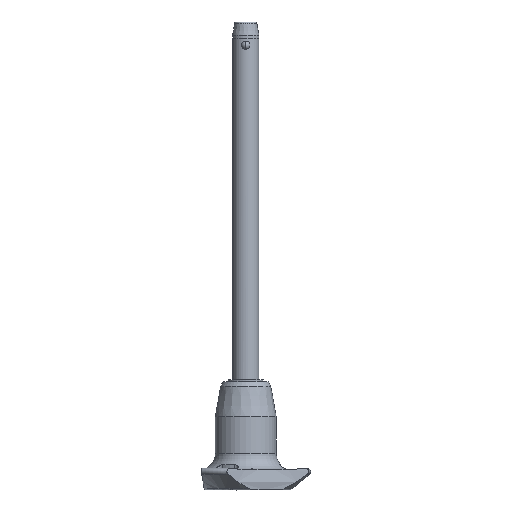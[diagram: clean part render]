
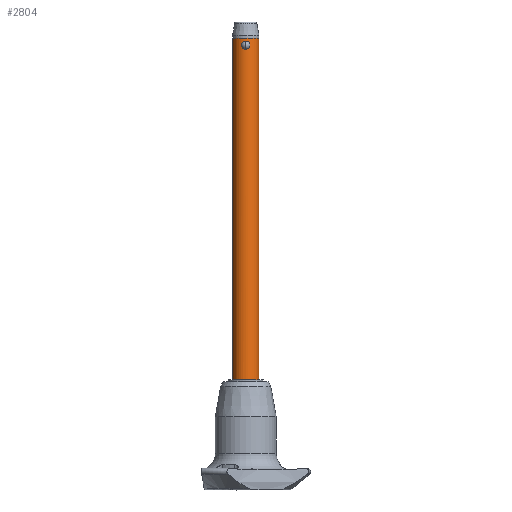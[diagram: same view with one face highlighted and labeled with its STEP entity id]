
A CAD part, front view. The second image highlights one B-rep face of the part: STEP entity #2804.
In plain terms, the highlighted cylindrical face has radius 4 mm (diameter 8 mm), a partial arc.
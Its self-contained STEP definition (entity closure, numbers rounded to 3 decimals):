
#21 = VERTEX_POINT ( 'NONE', #1740 ) ;
#43 = VERTEX_POINT ( 'NONE', #1115 ) ;
#44 = EDGE_CURVE ( 'NONE', #43, #1771, #709, .T. ) ;
#91 = CARTESIAN_POINT ( 'NONE',  ( 1.005, -3.874, 1.953 ) ) ;
#122 = CARTESIAN_POINT ( 'NONE',  ( 1.258, -3.797, 1.361 ) ) ;
#123 = CARTESIAN_POINT ( 'NONE',  ( -0.945, -3.887, 2.008 ) ) ;
#140 = CARTESIAN_POINT ( 'NONE',  ( -1.266, -3.794, 1.12 ) ) ;
#170 = DIRECTION ( 'NONE',  ( 0., 0., -1. ) ) ;
#180 = CARTESIAN_POINT ( 'NONE',  ( -0.998, -3.874, 1.949 ) ) ;
#224 = DIRECTION ( 'NONE',  ( 0., 0., 1. ) ) ;
#265 = CARTESIAN_POINT ( 'NONE',  ( 4., 0., -100. ) ) ;
#273 = CARTESIAN_POINT ( 'NONE',  ( -4., 0., -100. ) ) ;
#329 = CARTESIAN_POINT ( 'NONE',  ( 1.092, -3.848, 0.582 ) ) ;
#429 = CIRCLE ( 'NONE', #1205, 4. ) ;
#471 = CYLINDRICAL_SURFACE ( 'NONE', #2020, 4. ) ;
#486 = CARTESIAN_POINT ( 'NONE',  ( -4., 0., 3.28 ) ) ;
#514 = VECTOR ( 'NONE', #1382, 1000. ) ;
#516 = ORIENTED_EDGE ( 'NONE', *, *, #1131, .F. ) ;
#522 = CARTESIAN_POINT ( 'NONE',  ( 0., -4., 0. ) ) ;
#545 = EDGE_CURVE ( 'NONE', #772, #21, #688, .T. ) ;
#658 = CARTESIAN_POINT ( 'NONE',  ( 0., 0., -100. ) ) ;
#688 = LINE ( 'NONE', #1546, #514 ) ;
#704 = VERTEX_POINT ( 'NONE', #2627 ) ;
#709 = LINE ( 'NONE', #273, #910 ) ;
#772 = VERTEX_POINT ( 'NONE', #265 ) ;
#776 = CARTESIAN_POINT ( 'NONE',  ( 0.326, -3.99, 2.371 ) ) ;
#777 = CARTESIAN_POINT ( 'NONE',  ( -1.005, -3.874, 0.447 ) ) ;
#789 = CARTESIAN_POINT ( 'NONE',  ( 1.231, -3.806, 0.873 ) ) ;
#801 = B_SPLINE_CURVE_WITH_KNOTS ( 'NONE', 3,
 ( #522, #2265, #1887, #1204, #1173, #1871, #2072, #329, #2755, #789, #803, #1841, #122, #2465, #1855, #2040, #91, #2688, #2723, #776, #1643, #2513 ),
 .UNSPECIFIED., .F., .F.,
 ( 4, 2, 2, 2, 2, 2, 2, 2, 2, 2, 4 ),
 ( 0.004, 0.004, 0.005, 0.005, 0.005, 0.006, 0.006, 0.006, 0.007, 0.007, 0.008 ),
 .UNSPECIFIED. ) ;
#803 = CARTESIAN_POINT ( 'NONE',  ( 1.266, -3.794, 1.035 ) ) ;
#805 = CARTESIAN_POINT ( 'NONE',  ( -1.258, -3.797, 1.038 ) ) ;
#815 = CARTESIAN_POINT ( 'NONE',  ( -0.162, -4., 0. ) ) ;
#827 = CARTESIAN_POINT ( 'NONE',  ( -0.827, -3.914, 2.117 ) ) ;
#882 = EDGE_LOOP ( 'NONE', ( #516, #2805 ) ) ;
#901 = DIRECTION ( 'NONE',  ( 0., 0., 1. ) ) ;
#910 = VECTOR ( 'NONE', #1142, 1000. ) ;
#930 = DIRECTION ( 'NONE',  ( 1., 0., 0. ) ) ;
#989 = CARTESIAN_POINT ( 'NONE',  ( -0.553, -3.962, 2.285 ) ) ;
#1008 = CARTESIAN_POINT ( 'NONE',  ( 0., -4., 2.4 ) ) ;
#1020 = CARTESIAN_POINT ( 'NONE',  ( -0.768, -3.927, 0.228 ) ) ;
#1043 = CARTESIAN_POINT ( 'NONE',  ( -1.092, -3.848, 1.818 ) ) ;
#1115 = CARTESIAN_POINT ( 'NONE',  ( -4., 0., -100. ) ) ;
#1131 = EDGE_CURVE ( 'NONE', #2344, #704, #1821, .T. ) ;
#1142 = DIRECTION ( 'NONE',  ( 0., 0., 1. ) ) ;
#1162 = CARTESIAN_POINT ( 'NONE',  ( 0., 0., 3.28 ) ) ;
#1171 = ORIENTED_EDGE ( 'NONE', *, *, #1807, .F. ) ;
#1173 = CARTESIAN_POINT ( 'NONE',  ( 0.768, -3.927, 0.228 ) ) ;
#1204 = CARTESIAN_POINT ( 'NONE',  ( 0.627, -3.953, 0.143 ) ) ;
#1205 = AXIS2_PLACEMENT_3D ( 'NONE', #2154, #170, #1261 ) ;
#1218 = CARTESIAN_POINT ( 'NONE',  ( -0.164, -4., 2.4 ) ) ;
#1261 = DIRECTION ( 'NONE',  ( 1., 0., 0. ) ) ;
#1295 = ORIENTED_EDGE ( 'NONE', *, *, #1962, .F. ) ;
#1382 = DIRECTION ( 'NONE',  ( 0., 0., 1. ) ) ;
#1417 = CARTESIAN_POINT ( 'NONE',  ( 0., -4., 2.4 ) ) ;
#1446 = CARTESIAN_POINT ( 'NONE',  ( -1.266, -3.794, 1.364 ) ) ;
#1470 = CIRCLE ( 'NONE', #2521, 4. ) ;
#1493 = ORIENTED_EDGE ( 'NONE', *, *, #44, .F. ) ;
#1546 = CARTESIAN_POINT ( 'NONE',  ( 4., 0., -100. ) ) ;
#1643 = CARTESIAN_POINT ( 'NONE',  ( 0.164, -4., 2.4 ) ) ;
#1684 = CARTESIAN_POINT ( 'NONE',  ( 0., -4., 0. ) ) ;
#1740 = CARTESIAN_POINT ( 'NONE',  ( 4., 0., 3.28 ) ) ;
#1771 = VERTEX_POINT ( 'NONE', #486 ) ;
#1806 = EDGE_LOOP ( 'NONE', ( #1493, #1295, #1991, #1171 ) ) ;
#1807 = EDGE_CURVE ( 'NONE', #1771, #21, #1470, .T. ) ;
#1821 = B_SPLINE_CURVE_WITH_KNOTS ( 'NONE', 3,
 ( #1417, #1218, #2074, #989, #2766, #2102, #827, #123, #180, #1043, #1857, #1911, #1446, #140, #805, #2724, #2777, #2756, #777, #1020, #1889, #2515, #815, #1684 ),
 .UNSPECIFIED., .F., .F.,
 ( 4, 2, 2, 2, 2, 2, 2, 2, 2, 2, 2, 4 ),
 ( 0., 0., 0.001, 0.001, 0.001, 0.001, 0.002, 0.002, 0.002, 0.003, 0.003, 0.004 ),
 .UNSPECIFIED. ) ;
#1841 = CARTESIAN_POINT ( 'NONE',  ( 1.266, -3.794, 1.281 ) ) ;
#1855 = CARTESIAN_POINT ( 'NONE',  ( 1.199, -3.816, 1.599 ) ) ;
#1857 = CARTESIAN_POINT ( 'NONE',  ( -1.133, -3.836, 1.747 ) ) ;
#1871 = CARTESIAN_POINT ( 'NONE',  ( 0.944, -3.887, 0.391 ) ) ;
#1887 = CARTESIAN_POINT ( 'NONE',  ( 0.326, -3.99, 0.029 ) ) ;
#1889 = CARTESIAN_POINT ( 'NONE',  ( -0.628, -3.953, 0.143 ) ) ;
#1911 = CARTESIAN_POINT ( 'NONE',  ( -1.231, -3.806, 1.527 ) ) ;
#1962 = EDGE_CURVE ( 'NONE', #772, #43, #429, .T. ) ;
#1991 = ORIENTED_EDGE ( 'NONE', *, *, #545, .T. ) ;
#2020 = AXIS2_PLACEMENT_3D ( 'NONE', #658, #224, #2212 ) ;
#2040 = CARTESIAN_POINT ( 'NONE',  ( 1.101, -3.846, 1.82 ) ) ;
#2072 = CARTESIAN_POINT ( 'NONE',  ( 0.999, -3.874, 0.452 ) ) ;
#2074 = CARTESIAN_POINT ( 'NONE',  ( -0.325, -3.99, 2.371 ) ) ;
#2102 = CARTESIAN_POINT ( 'NONE',  ( -0.762, -3.927, 2.166 ) ) ;
#2154 = CARTESIAN_POINT ( 'NONE',  ( 0., 0., -100. ) ) ;
#2160 = FACE_BOUND ( 'NONE', #882, .T. ) ;
#2212 = DIRECTION ( 'NONE',  ( 1., 0., 0. ) ) ;
#2259 = EDGE_CURVE ( 'NONE', #704, #2344, #801, .T. ) ;
#2265 = CARTESIAN_POINT ( 'NONE',  ( 0.162, -4., 0. ) ) ;
#2344 = VERTEX_POINT ( 'NONE', #1008 ) ;
#2465 = CARTESIAN_POINT ( 'NONE',  ( 1.224, -3.808, 1.52 ) ) ;
#2513 = CARTESIAN_POINT ( 'NONE',  ( 0., -4., 2.4 ) ) ;
#2515 = CARTESIAN_POINT ( 'NONE',  ( -0.326, -3.99, 0.029 ) ) ;
#2521 = AXIS2_PLACEMENT_3D ( 'NONE', #1162, #901, #930 ) ;
#2627 = CARTESIAN_POINT ( 'NONE',  ( 0., -4., 0. ) ) ;
#2640 = FACE_OUTER_BOUND ( 'NONE', #1806, .T. ) ;
#2688 = CARTESIAN_POINT ( 'NONE',  ( 0.769, -3.927, 2.171 ) ) ;
#2723 = CARTESIAN_POINT ( 'NONE',  ( 0.629, -3.953, 2.256 ) ) ;
#2724 = CARTESIAN_POINT ( 'NONE',  ( -1.224, -3.808, 0.879 ) ) ;
#2755 = CARTESIAN_POINT ( 'NONE',  ( 1.132, -3.836, 0.651 ) ) ;
#2756 = CARTESIAN_POINT ( 'NONE',  ( -1.101, -3.846, 0.579 ) ) ;
#2766 = CARTESIAN_POINT ( 'NONE',  ( -0.625, -3.951, 2.25 ) ) ;
#2777 = CARTESIAN_POINT ( 'NONE',  ( -1.199, -3.816, 0.802 ) ) ;
#2804 = ADVANCED_FACE ( 'NONE', ( #2640, #2160 ), #471, .T. ) ;
#2805 = ORIENTED_EDGE ( 'NONE', *, *, #2259, .F. ) ;
